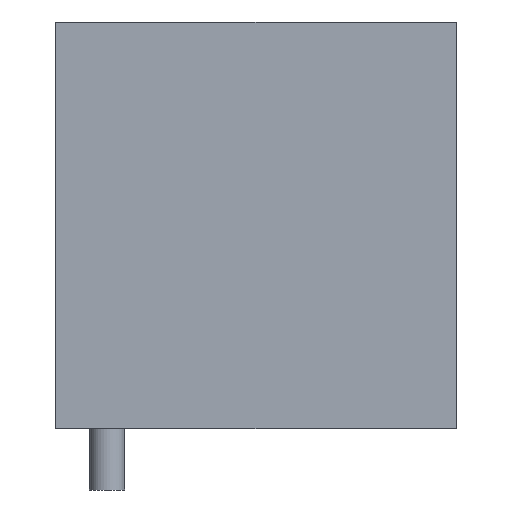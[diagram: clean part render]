
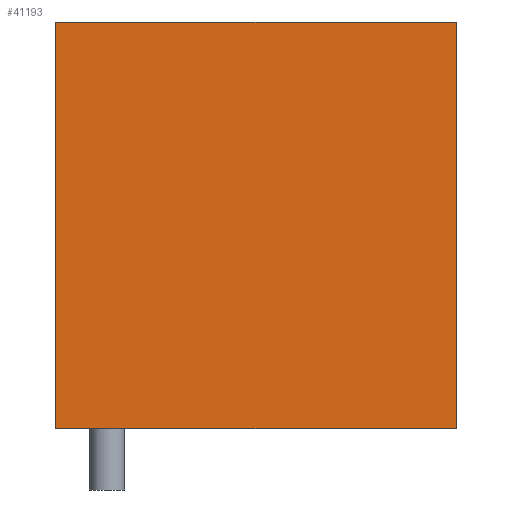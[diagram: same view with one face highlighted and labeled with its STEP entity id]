
A CAD part, left-side view. The second image highlights one B-rep face of the part: STEP entity #41193.
In plain terms, the highlighted planar face has unit normal (-1, 0, 0).
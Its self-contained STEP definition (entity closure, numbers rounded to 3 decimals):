
#2745 = EDGE_LOOP ( 'NONE', ( #42182, #36217, #18556, #42002 ) ) ;
#3158 = VECTOR ( 'NONE', #49060, 1000. ) ;
#4042 = AXIS2_PLACEMENT_3D ( 'NONE', #15761, #16362, #6918 ) ;
#4686 = VERTEX_POINT ( 'NONE', #30280 ) ;
#6323 = PLANE ( 'NONE',  #4042 ) ;
#6918 = DIRECTION ( 'NONE',  ( 0., 0., -1. ) ) ;
#7702 = LINE ( 'NONE', #8004, #3158 ) ;
#7935 = VERTEX_POINT ( 'NONE', #34349 ) ;
#8004 = CARTESIAN_POINT ( 'NONE',  ( -188., 0., -31.65 ) ) ;
#9102 = VECTOR ( 'NONE', #9221, 1000. ) ;
#9221 = DIRECTION ( 'NONE',  ( 0., 0., -1. ) ) ;
#10230 = CARTESIAN_POINT ( 'NONE',  ( -188., 62.3, 31.65 ) ) ;
#10692 = VERTEX_POINT ( 'NONE', #10230 ) ;
#13457 = VERTEX_POINT ( 'NONE', #44422 ) ;
#15761 = CARTESIAN_POINT ( 'NONE',  ( -188., 0., 31.65 ) ) ;
#16362 = DIRECTION ( 'NONE',  ( 1., 0., 0. ) ) ;
#18556 = ORIENTED_EDGE ( 'NONE', *, *, #51292, .F. ) ;
#23315 = VECTOR ( 'NONE', #56753, 1000. ) ;
#25430 = LINE ( 'NONE', #38216, #23315 ) ;
#27472 = VECTOR ( 'NONE', #28106, 1000. ) ;
#28106 = DIRECTION ( 'NONE',  ( 0., 0., -1. ) ) ;
#30280 = CARTESIAN_POINT ( 'NONE',  ( -188., 0., -31.65 ) ) ;
#34349 = CARTESIAN_POINT ( 'NONE',  ( -188., 0., 31.65 ) ) ;
#36217 = ORIENTED_EDGE ( 'NONE', *, *, #39253, .F. ) ;
#37077 = EDGE_CURVE ( 'NONE', #13457, #4686, #7702, .T. ) ;
#38216 = CARTESIAN_POINT ( 'NONE',  ( -188., 0., 31.65 ) ) ;
#39253 = EDGE_CURVE ( 'NONE', #7935, #4686, #56326, .T. ) ;
#41193 = ADVANCED_FACE ( 'NONE', ( #47990 ), #6323, .F. ) ;
#42002 = ORIENTED_EDGE ( 'NONE', *, *, #43880, .T. ) ;
#42182 = ORIENTED_EDGE ( 'NONE', *, *, #37077, .T. ) ;
#43880 = EDGE_CURVE ( 'NONE', #10692, #13457, #55772, .T. ) ;
#44422 = CARTESIAN_POINT ( 'NONE',  ( -188., 62.3, -31.65 ) ) ;
#47990 = FACE_OUTER_BOUND ( 'NONE', #2745, .T. ) ;
#49060 = DIRECTION ( 'NONE',  ( 0., -1., 0. ) ) ;
#51220 = CARTESIAN_POINT ( 'NONE',  ( -188., 62.3, 31.65 ) ) ;
#51292 = EDGE_CURVE ( 'NONE', #10692, #7935, #25430, .T. ) ;
#51770 = CARTESIAN_POINT ( 'NONE',  ( -188., 0., 31.65 ) ) ;
#55772 = LINE ( 'NONE', #51220, #27472 ) ;
#56326 = LINE ( 'NONE', #51770, #9102 ) ;
#56753 = DIRECTION ( 'NONE',  ( 0., -1., 0. ) ) ;
